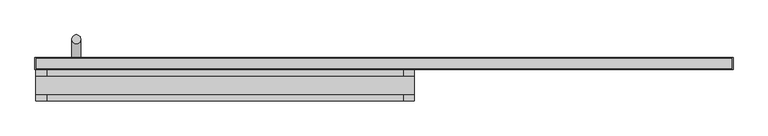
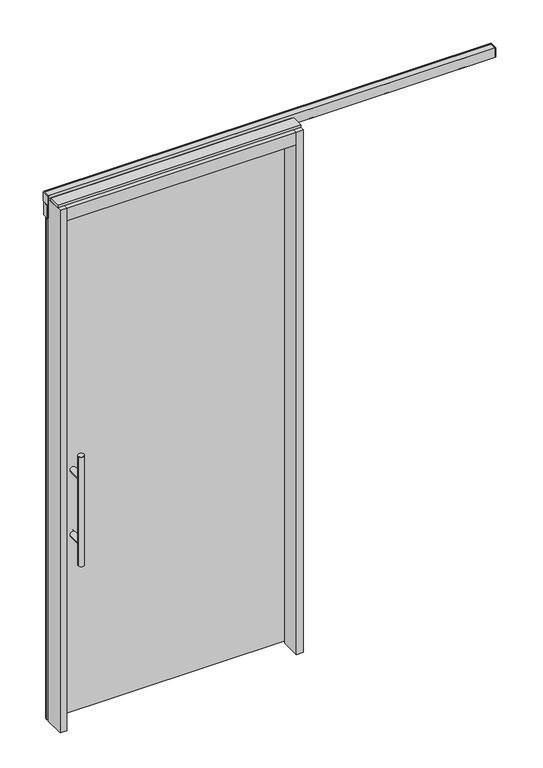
"""IFC4 building model written with IfcOpenShell, lengths in millimetres: furniture geometry, Allsteel - Aspect - Door - Single - Sliding (02-18-25) : Allsteel - Aspect - Door - Single - Sliding (02-18-25)."""

from ifc_helpers import new_model, si_unit, frame, origin, origin_with_axes, place, context, project, spatial, polyline, circle_curve, ellipse_curve, outline, extrude, source, transform, mapped, element, save
from ifc_brep_helpers import plane_surface, cylinder_surface, advanced_brep


def furniture_ef219118(model_context):
    return source(origin(), model_context, "Body", "SolidModel", [
        advanced_brep(
        [(101.6, 130.175003, 717.55), (127.0, 130.175003, 717.55), (101.6, 130.175003, 1225.55), (127.0, 130.175003, 1225.55), (101.6, 130.175003, 1121.8183073), (127.0, 130.175003, 1121.8183073), (101.6, 130.175003, 821.2990101), (127.0, 130.175003, 821.2990101), (101.6, 66.675, 1121.8183073), (127.0, 66.675, 1121.8183073), (101.6, 66.675, 821.2990101), (127.0, 66.675, 821.2990101)],
        [
            (0, 1, circle_curve(frame((114.3, 130.175003, 717.55), z_axis=(0.0, 0.0, -1.0), x_axis=(1.0, 0.0, 0.0)), 12.7)),
            (1, 0, circle_curve(frame((114.3, 130.175003, 717.55), z_axis=(0.0, 0.0, -1.0), x_axis=(1.0, 0.0, 0.0)), 12.7)),
            (2, 3, circle_curve(frame((114.3, 130.175003, 1225.55), z_axis=(0.0, 0.0, 1.0), x_axis=(1.0, 0.0, 0.0)), 12.7)),
            (3, 2, circle_curve(frame((114.3, 130.175003, 1225.55), z_axis=(0.0, 0.0, 1.0), x_axis=(1.0, 0.0, 0.0)), 12.7)),
            (2, 4),
            (4, 5, ellipse_curve(frame((114.3, 130.175003, 1121.8183073), z_axis=(0.0, 0.7071067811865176, 0.7071067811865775), x_axis=(0.0, 0.7071067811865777, -0.7071067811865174)), 17.9605122, 12.7)),
            (5, 3),
            (4, 6),
            (6, 7, ellipse_curve(frame((114.3, 130.175003, 821.2990101), z_axis=(0.0, 0.7071067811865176, 0.7071067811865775), x_axis=(0.0, 0.7071067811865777, -0.7071067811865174)), 17.9605122, 12.7)),
            (7, 5),
            (5, 4, ellipse_curve(frame((114.3, 130.175003, 1121.8183073), z_axis=(0.0, 0.7071067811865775, -0.7071067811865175), x_axis=(0.0, -0.7071067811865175, -0.7071067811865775)), 17.9605122, 12.7)),
            (1, 7),
            (7, 6, ellipse_curve(frame((114.3, 130.175003, 821.2990101), z_axis=(0.0, 0.7071067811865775, -0.7071067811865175), x_axis=(0.0, -0.7071067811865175, -0.7071067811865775)), 17.9605122, 12.7)),
            (6, 0),
            (8, 9, circle_curve(frame((114.3, 66.675, 1121.8183073), z_axis=(0.0, -1.0, 0.0), x_axis=(1.0, 0.0, 0.0)), 12.7)),
            (9, 8, circle_curve(frame((114.3, 66.675, 1121.8183073), z_axis=(0.0, -1.0, 0.0), x_axis=(1.0, 0.0, 0.0)), 12.7)),
            (8, 4),
            (5, 9),
            (10, 11, circle_curve(frame((114.3, 66.675, 821.2990101), z_axis=(0.0, -1.0, 0.0), x_axis=(1.0, 0.0, 0.0)), 12.7)),
            (11, 10, circle_curve(frame((114.3, 66.675, 821.2990101), z_axis=(0.0, -1.0, 0.0), x_axis=(1.0, 0.0, 0.0)), 12.7)),
            (11, 7),
            (6, 10),
        ],
        [
            plane_surface(frame((127.0, 130.175003, 717.55), z_axis=(0.0, 0.0, -1.0), x_axis=(0.0, 1.0, 0.0))),
            plane_surface(frame((127.0, 130.175003, 1225.55), z_axis=(0.0, 0.0, 1.0), x_axis=(0.0, -1.0, 0.0))),
            cylinder_surface(frame((114.3, 130.175003, 1225.55), z_axis=(0.0, 0.0, -1.0), x_axis=(1.0, 0.0, 0.0)), 12.7),
            plane_surface(frame((127.0, 66.675, 1121.8183073), z_axis=(0.0, -1.0, 0.0), x_axis=(0.0, 0.0, -1.0))),
            cylinder_surface(frame((114.3, 66.675, 1121.8183073), z_axis=(0.0, 1.0, 0.0), x_axis=(1.0, 0.0, 0.0)), 12.7),
            plane_surface(frame((127.0, 66.675, 821.2990101), z_axis=(0.0, -1.0, 0.0), x_axis=(0.0, 0.0, -1.0))),
            cylinder_surface(frame((114.3, 66.675, 821.2990101), z_axis=(0.0, 1.0, 0.0), x_axis=(1.0, 0.0, 0.0)), 12.7),
        ],
        [
            (0, [[1, 2]]),
            (1, [[3, 4]]),
            (2, [[5, 6, 7, -3]]),
            (2, [[8, 9, 10, 11]]),
            (2, [[12, 13, 14, -2]]),
            (2, [[-14, -8, -5, -4, -7, -10, -12, -1]]),
            (3, [[15, 16]]),
            (4, [[17, -11, 18, -15]]),
            (4, [[-18, -6, -17, -16]]),
            (5, [[19, 20]]),
            (6, [[21, -9, 22, -20]]),
            (6, [[-22, -13, -21, -19]]),
        ],
    ),
        advanced_brep(
        [(101.6, -6.350003, 717.55), (127.0, -6.350003, 717.55), (101.6, -6.350003, 1225.55), (127.0, -6.350003, 1225.55), (101.6, -6.350003, 821.2990101), (127.0, -6.350003, 821.2990101), (127.0, -6.350003, 1121.8183073), (101.6, -6.350003, 1121.8183073), (101.6, 57.15, 1121.8183073), (127.0, 57.15, 1121.8183073), (101.6, 57.15, 821.2990101), (127.0, 57.15, 821.2990101)],
        [
            (0, 1, circle_curve(frame((114.3, -6.350003, 717.55), z_axis=(0.0, 0.0, -1.0), x_axis=(1.0, 0.0, 0.0)), 12.7)),
            (1, 0, circle_curve(frame((114.3, -6.350003, 717.55), z_axis=(0.0, 0.0, -1.0), x_axis=(1.0, 0.0, 0.0)), 12.7)),
            (2, 3, circle_curve(frame((114.3, -6.350003, 1225.55), z_axis=(0.0, 0.0, 1.0), x_axis=(1.0, 0.0, 0.0)), 12.7)),
            (3, 2, circle_curve(frame((114.3, -6.350003, 1225.55), z_axis=(0.0, 0.0, 1.0), x_axis=(1.0, 0.0, 0.0)), 12.7)),
            (0, 4),
            (4, 5, ellipse_curve(frame((114.3, -6.350003, 821.2990101), z_axis=(0.0, -0.7071067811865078, -0.7071067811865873), x_axis=(0.0, 0.7071067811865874, -0.7071067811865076)), 17.9605122, 12.7)),
            (5, 1),
            (3, 6),
            (6, 7, ellipse_curve(frame((114.3, -6.350003, 1121.8183073), z_axis=(0.0, -0.7071067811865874, 0.7071067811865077), x_axis=(0.0, -0.7071067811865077, -0.7071067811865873)), 17.9605122, 12.7)),
            (7, 2),
            (7, 6, ellipse_curve(frame((114.3, -6.350003, 1121.8183073), z_axis=(0.0, -0.7071067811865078, -0.7071067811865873), x_axis=(0.0, 0.7071067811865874, -0.7071067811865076)), 17.9605122, 12.7)),
            (6, 5),
            (5, 4, ellipse_curve(frame((114.3, -6.350003, 821.2990101), z_axis=(0.0, -0.7071067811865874, 0.7071067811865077), x_axis=(0.0, -0.7071067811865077, -0.7071067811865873)), 17.9605122, 12.7)),
            (4, 7),
            (8, 9, circle_curve(frame((114.3, 57.15, 1121.8183073), z_axis=(0.0, 1.0, 0.0), x_axis=(1.0, 0.0, 0.0)), 12.7)),
            (9, 8, circle_curve(frame((114.3, 57.15, 1121.8183073), z_axis=(0.0, 1.0, 0.0), x_axis=(1.0, 0.0, 0.0)), 12.7)),
            (9, 6),
            (7, 8),
            (10, 11, circle_curve(frame((114.3, 57.15, 821.2990101), z_axis=(0.0, 1.0, 0.0), x_axis=(1.0, 0.0, 0.0)), 12.7)),
            (11, 10, circle_curve(frame((114.3, 57.15, 821.2990101), z_axis=(0.0, 1.0, 0.0), x_axis=(1.0, 0.0, 0.0)), 12.7)),
            (10, 4),
            (5, 11),
        ],
        [
            plane_surface(frame((127.0, -6.350003, 717.55), z_axis=(0.0, 0.0, -1.0), x_axis=(0.0, -1.0, 0.0))),
            plane_surface(frame((127.0, -6.350003, 1225.55), z_axis=(0.0, 0.0, 1.0), x_axis=(0.0, 1.0, 0.0))),
            cylinder_surface(frame((114.3, -6.350003, 1225.55), z_axis=(0.0, 0.0, -1.0), x_axis=(1.0, 0.0, 0.0)), 12.7),
            plane_surface(frame((127.0, 57.15, 1121.8183073), z_axis=(0.0, 1.0, 0.0), x_axis=(0.0, 0.0, -1.0))),
            cylinder_surface(frame((114.3, 57.15, 1121.8183073), z_axis=(0.0, -1.0, 0.0), x_axis=(1.0, 0.0, 0.0)), 12.7),
            plane_surface(frame((127.0, 57.15, 821.2990101), z_axis=(0.0, 1.0, 0.0), x_axis=(0.0, 0.0, -1.0))),
            cylinder_surface(frame((114.3, 57.15, 821.2990101), z_axis=(0.0, -1.0, 0.0), x_axis=(1.0, 0.0, 0.0)), 12.7),
        ],
        [
            (0, [[1, 2]]),
            (1, [[3, 4]]),
            (2, [[-1, 5, 6, 7]]),
            (2, [[-4, 8, 9, 10]]),
            (2, [[11, 12, 13, 14]]),
            (2, [[-2, -7, -12, -8, -3, -10, -14, -5]]),
            (3, [[15, 16]]),
            (4, [[-16, 17, -11, 18]]),
            (4, [[-15, -18, -9, -17]]),
            (5, [[19, 20]]),
            (6, [[-19, 21, -13, 22]]),
            (6, [[-20, -22, -6, -21]]),
        ],
    ),
        extrude(outline(polyline([(-2.5399612, 45.0580237), (-2.5399612, 78.7923987), (0.0, 78.7923987), (0.0, 45.0580237), (-2.5399612, 45.0580237)])), frame((0.0, 0.0, 2395.6367187), z_axis=(0.0, 0.0, 1.0), x_axis=(1.0, 0.0, 0.0)), (0.0, 0.0, 1.0), 42.7632813),
        extrude(outline(polyline([(1964.6899612, 78.7923987), (1964.6899612, 45.0580237), (1962.15, 45.0580237), (1962.15, 78.7923987), (1964.6899612, 78.7923987)])), frame((0.0, 0.0, 2395.6367188), z_axis=(0.0, 0.0, 1.0), x_axis=(1.0, 0.0, 0.0)), (0.0, 0.0, 1.0), 42.7632813),
        extrude(outline(polyline([(1075.6823854, 76.2026964), (1075.6823854, 47.6478714), (1073.1424242, 47.6478714), (1073.1424242, 76.2026964), (1075.6823854, 76.2026964)])), frame((0.0, 0.0, 2332.0374031), z_axis=(0.0, 0.0, 1.0), x_axis=(1.0, 0.0, 0.0)), (0.0, 0.0, 1.0), 60.3250969),
        extrude(outline(polyline([(-2.5475371, 47.647726), (-2.5475371, 76.202551), (-0.0075758, 76.202551), (-0.0075758, 47.647726), (-2.5475371, 47.647726)])), frame((0.0, 0.0, 2332.0374031), z_axis=(0.0, 0.0, 1.0), x_axis=(1.0, 0.0, 0.0)), (0.0, 0.0, 1.0), 60.3250969),
        extrude(outline(polyline([(53.0500126, 2392.3625), (53.0500126, 2390.775), (49.235226, 2390.775), (49.235226, 2382.4479889), (74.6152054, 2382.4479889), (74.6152054, 2390.775), (70.8004098, 2390.775), (70.8004098, 2392.3625), (76.2027054, 2392.3625), (76.2027054, 2332.0374031), (68.1314139, 2332.0374031), (68.1314139, 2339.9906967), (69.7189139, 2339.9906967), (69.7189139, 2333.6249031), (74.6151964, 2333.6249031), (74.6151964, 2358.9630852), (68.1314139, 2358.9630852), (68.1314139, 2370.1321709), (55.7190084, 2370.1321709), (55.7190084, 2358.9630852), (49.235226, 2358.9630852), (49.235226, 2333.6249031), (54.1315084, 2333.6249031), (54.1315084, 2339.9906967), (55.7190084, 2339.9906967), (55.7190084, 2332.0374031), (47.647726, 2332.0374031), (47.647726, 2392.3625), (53.0500126, 2392.3625)])), frame((-0.0075758, 0.0, 0.0), z_axis=(1.0, 0.0, 0.0), x_axis=(0.0, 1.0, 0.0)), (0.0, 0.0, 1.0), 1073.15),
        extrude(outline(polyline([(46.5923262, 2438.4), (46.5923262, 2436.3655312), (77.2580871, 2436.3655312), (77.2580871, 2438.4), (78.7805959, 2438.4), (78.7805959, 2395.6014496), (68.8034523, 2395.6014496), (68.8034523, 2397.1889496), (77.1930959, 2397.1889496), (77.1930959, 2434.7780312), (46.6573174, 2434.7780312), (46.6573174, 2397.1889496), (55.0469701, 2397.1889496), (55.0469701, 2395.6014496), (45.0698174, 2395.6014496), (45.0698174, 2438.4), (46.5923262, 2438.4)])), frame((0.0, 0.0, 0.0), z_axis=(1.0, 0.0, 0.0), x_axis=(0.0, 1.0, 0.0)), (0.0, 0.0, 1.0), 1962.15),
        extrude(outline(polyline([(1066.8, 25.4), (1066.8, -25.4), (0.0, -25.4), (0.0, 25.4), (1066.8, 25.4)])), frame((0.0, 0.0, 2425.7), z_axis=(0.0, 0.0, 1.0), x_axis=(1.0, 0.0, 0.0)), (0.0, 0.0, 1.0), 12.7),
        extrude(outline(polyline([(1066.8, -44.45), (1036.6375, -44.45), (1036.6375, 44.45), (1066.8, 44.45), (1066.8, -44.45)])), origin_with_axes(), (0.0, 0.0, 1.0), 2425.7),
        extrude(outline(polyline([(0.0, -44.45), (0.0, 44.45), (30.1625, 44.45), (30.1625, -44.45), (0.0, -44.45)])), origin_with_axes(), (0.0, 0.0, 1.0), 2425.7),
        extrude(outline(polyline([(1066.8, 57.15), (0.0, 57.15), (0.0, 66.675), (1066.8, 66.675), (1066.8, 57.15)])), origin_with_axes(), (0.0, 0.0, 1.0), 2362.2),
        extrude(outline(polyline([(44.45, 2425.7), (44.45, 2392.0498958), (-44.45, 2366.6452086), (-44.45, 2425.7), (44.45, 2425.7)])), frame((30.1625, 0.0, 0.0), z_axis=(1.0, 0.0, 0.0), x_axis=(0.0, 1.0, 0.0)), (0.0, 0.0, 1.0), 1006.475),
    ])


if __name__ == "__main__":
    model = new_model("IFC4")
    model_context = context("Model", 3, world=origin())
    ifc_project = project(units=[si_unit("LENGTHUNIT", "METRE", prefix="MILLI")], contexts=[model_context])
    site = spatial("IfcSite", under=ifc_project)
    building = spatial("IfcBuilding", under=site)
    placement = place(None, origin())
    furniture_shape = furniture_ef219118(model_context)
    element("IfcFurniture", 1, ObjectType="Allsteel - Aspect - Door - Single - Sliding (02-18-25) : Allsteel - Aspect - Door - Single - Sliding (02-18-25)", at=placement, inside=building, context=model_context, shape_type="MappedRepresentation", body=[
        mapped(furniture_shape, transform((0.0, 0.0, 0.0), x_axis=(1.0, 0.0, 0.0), y_axis=(0.0, 1.0, 0.0), z_axis=(0.0, 0.0, 1.0))),
    ])
    save(model, "model.ifc")
